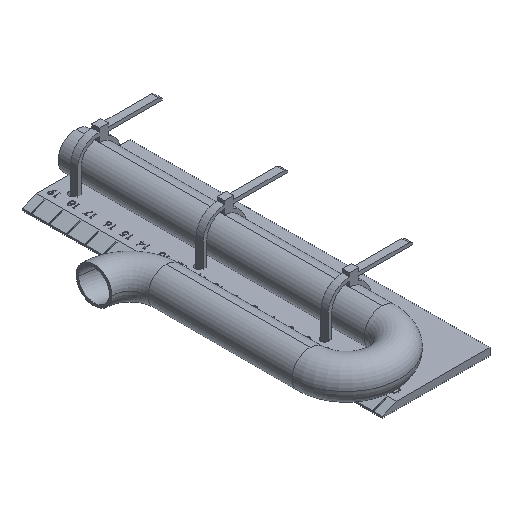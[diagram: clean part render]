
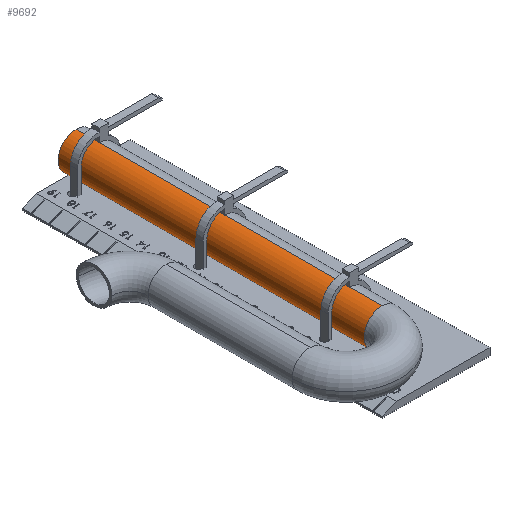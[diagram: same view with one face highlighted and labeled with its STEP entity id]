
A CAD part, isometric view. The second image highlights one B-rep face of the part: STEP entity #9692.
In plain terms, the highlighted cylindrical face has radius 10 mm (diameter 20 mm), a partial arc.
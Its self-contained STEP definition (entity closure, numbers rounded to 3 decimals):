
#165 = VECTOR ( 'NONE', #18471, 1000. ) ;
#511 = ORIENTED_EDGE ( 'NONE', *, *, #25089, .F. ) ;
#2032 = EDGE_CURVE ( 'NONE', #23493, #21724, #16377, .T. ) ;
#2262 = AXIS2_PLACEMENT_3D ( 'NONE', #9829, #5925, #11804 ) ;
#2725 = CYLINDRICAL_SURFACE ( 'NONE', #2262, 10. ) ;
#2732 = DIRECTION ( 'NONE',  ( 0., 0., 1. ) ) ;
#3925 = CARTESIAN_POINT ( 'NONE',  ( 20., 190., -10. ) ) ;
#4171 = CARTESIAN_POINT ( 'NONE',  ( 20., 20., 10. ) ) ;
#5180 = EDGE_CURVE ( 'NONE', #11928, #12829, #18676, .T. ) ;
#5303 = DIRECTION ( 'NONE',  ( 0., 0., 1. ) ) ;
#5925 = DIRECTION ( 'NONE',  ( 0., -1., 0. ) ) ;
#8709 = VECTOR ( 'NONE', #9800, 1000. ) ;
#9692 = ADVANCED_FACE ( 'NONE', ( #18274 ), #2725, .T. ) ;
#9800 = DIRECTION ( 'NONE',  ( 0., -1., 0. ) ) ;
#9829 = CARTESIAN_POINT ( 'NONE',  ( 20., 190., 0. ) ) ;
#10397 = DIRECTION ( 'NONE',  ( 0., 0., 1. ) ) ;
#10663 = CARTESIAN_POINT ( 'NONE',  ( 20., 20., 0. ) ) ;
#10720 = CARTESIAN_POINT ( 'NONE',  ( 20., 190., 10. ) ) ;
#11434 = CARTESIAN_POINT ( 'NONE',  ( 20., 20., 0. ) ) ;
#11804 = DIRECTION ( 'NONE',  ( 0., 0., -1. ) ) ;
#11928 = VERTEX_POINT ( 'NONE', #19501 ) ;
#12829 = VERTEX_POINT ( 'NONE', #13230 ) ;
#13113 = EDGE_CURVE ( 'NONE', #24175, #11928, #16342, .T. ) ;
#13224 = ORIENTED_EDGE ( 'NONE', *, *, #2032, .F. ) ;
#13230 = CARTESIAN_POINT ( 'NONE',  ( 10., 20., 0. ) ) ;
#14415 = DIRECTION ( 'NONE',  ( 0., 1., 0. ) ) ;
#15525 = CIRCLE ( 'NONE', #20462, 10. ) ;
#16342 = LINE ( 'NONE', #22247, #165 ) ;
#16377 = LINE ( 'NONE', #24771, #8709 ) ;
#16784 = EDGE_CURVE ( 'NONE', #12829, #21724, #15525, .T. ) ;
#18274 = FACE_OUTER_BOUND ( 'NONE', #22612, .T. ) ;
#18471 = DIRECTION ( 'NONE',  ( 0., -1., 0. ) ) ;
#18564 = ORIENTED_EDGE ( 'NONE', *, *, #13113, .T. ) ;
#18676 = CIRCLE ( 'NONE', #20328, 10. ) ;
#18787 = AXIS2_PLACEMENT_3D ( 'NONE', #20270, #14415, #2732 ) ;
#19501 = CARTESIAN_POINT ( 'NONE',  ( 20., 20., -10. ) ) ;
#20132 = CIRCLE ( 'NONE', #18787, 10. ) ;
#20270 = CARTESIAN_POINT ( 'NONE',  ( 20., 190., 0. ) ) ;
#20328 = AXIS2_PLACEMENT_3D ( 'NONE', #10663, #22093, #10397 ) ;
#20462 = AXIS2_PLACEMENT_3D ( 'NONE', #11434, #25102, #5303 ) ;
#21555 = ORIENTED_EDGE ( 'NONE', *, *, #5180, .T. ) ;
#21724 = VERTEX_POINT ( 'NONE', #4171 ) ;
#21940 = ORIENTED_EDGE ( 'NONE', *, *, #16784, .T. ) ;
#22093 = DIRECTION ( 'NONE',  ( 0., 1., 0. ) ) ;
#22247 = CARTESIAN_POINT ( 'NONE',  ( 20., 190., -10. ) ) ;
#22612 = EDGE_LOOP ( 'NONE', ( #13224, #511, #18564, #21555, #21940 ) ) ;
#23493 = VERTEX_POINT ( 'NONE', #10720 ) ;
#24175 = VERTEX_POINT ( 'NONE', #3925 ) ;
#24771 = CARTESIAN_POINT ( 'NONE',  ( 20., 190., 10. ) ) ;
#25089 = EDGE_CURVE ( 'NONE', #24175, #23493, #20132, .T. ) ;
#25102 = DIRECTION ( 'NONE',  ( 0., 1., 0. ) ) ;
